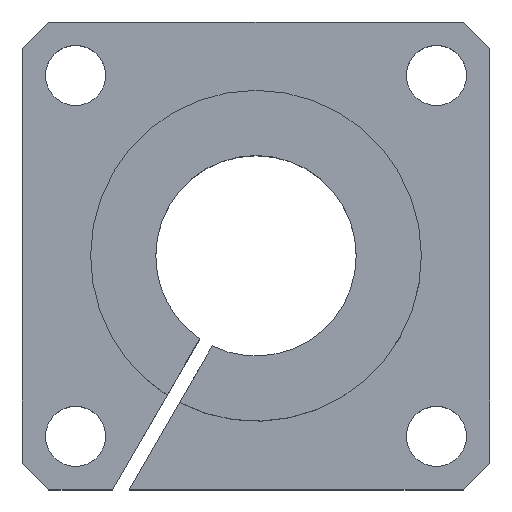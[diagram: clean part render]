
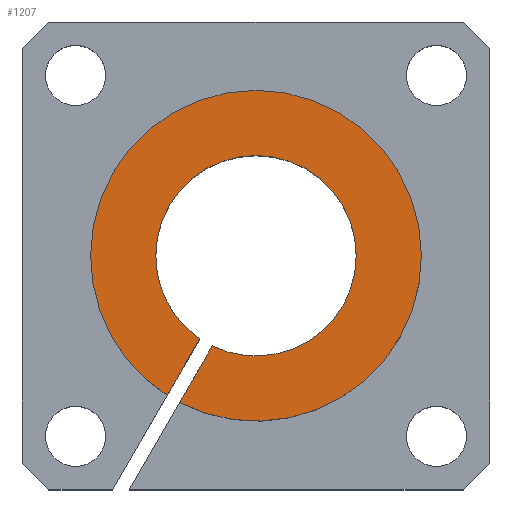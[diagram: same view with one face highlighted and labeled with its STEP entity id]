
A CAD part, top view. The second image highlights one B-rep face of the part: STEP entity #1207.
In plain terms, the highlighted planar face has unit normal (0, 0, 1).
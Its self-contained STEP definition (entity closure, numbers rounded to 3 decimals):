
#12 = CARTESIAN_POINT ( 'NONE',  ( 0., 0., 15. ) ) ;
#45 = CARTESIAN_POINT ( 'NONE',  ( -1.353, -4.493, 15. ) ) ;
#69 = DIRECTION ( 'NONE',  ( 0., 0., 1. ) ) ;
#86 = VERTEX_POINT ( 'NONE', #1185 ) ;
#90 = EDGE_CURVE ( 'NONE', #526, #1027, #760, .T. ) ;
#96 = CARTESIAN_POINT ( 'NONE',  ( 0., 0., 15. ) ) ;
#124 = CARTESIAN_POINT ( 'NONE',  ( -24.75, 0., 15. ) ) ;
#128 = FACE_OUTER_BOUND ( 'NONE', #168, .T. ) ;
#133 = DIRECTION ( 'NONE',  ( 0., 0., 1. ) ) ;
#136 = DIRECTION ( 'NONE',  ( 1., 0., 0. ) ) ;
#153 = CARTESIAN_POINT ( 'NONE',  ( 15., 0., 15. ) ) ;
#168 = EDGE_LOOP ( 'NONE', ( #590, #1076, #1213, #1003, #1131, #212, #815, #1132 ) ) ;
#185 = EDGE_CURVE ( 'NONE', #1137, #290, #1040, .T. ) ;
#212 = ORIENTED_EDGE ( 'NONE', *, *, #861, .F. ) ;
#240 = VERTEX_POINT ( 'NONE', #153 ) ;
#246 = VECTOR ( 'NONE', #626, 1000. ) ;
#250 = AXIS2_PLACEMENT_3D ( 'NONE', #1211, #998, #136 ) ;
#290 = VERTEX_POINT ( 'NONE', #863 ) ;
#292 = DIRECTION ( 'NONE',  ( 1., 0., 0. ) ) ;
#300 = VERTEX_POINT ( 'NONE', #455 ) ;
#301 = AXIS2_PLACEMENT_3D ( 'NONE', #683, #69, #446 ) ;
#327 = AXIS2_PLACEMENT_3D ( 'NONE', #731, #437, #642 ) ;
#333 = VERTEX_POINT ( 'NONE', #1059 ) ;
#362 = DIRECTION ( 'NONE',  ( 1., 0., 0. ) ) ;
#371 = CIRCLE ( 'NONE', #301, 24.75 ) ;
#437 = DIRECTION ( 'NONE',  ( 0., 0., 1. ) ) ;
#446 = DIRECTION ( 'NONE',  ( 1., 0., 0. ) ) ;
#455 = CARTESIAN_POINT ( 'NONE',  ( -8.412, -12.419, 15. ) ) ;
#485 = CIRCLE ( 'NONE', #327, 24.75 ) ;
#489 = CIRCLE ( 'NONE', #1143, 15. ) ;
#526 = VERTEX_POINT ( 'NONE', #124 ) ;
#559 = AXIS2_PLACEMENT_3D ( 'NONE', #96, #1183, #687 ) ;
#574 = AXIS2_PLACEMENT_3D ( 'NONE', #12, #785, #292 ) ;
#590 = ORIENTED_EDGE ( 'NONE', *, *, #185, .F. ) ;
#617 = EDGE_CURVE ( 'NONE', #300, #1027, #804, .T. ) ;
#626 = DIRECTION ( 'NONE',  ( 0.5, 0.866, 0. ) ) ;
#642 = DIRECTION ( 'NONE',  ( 1., 0., 0. ) ) ;
#683 = CARTESIAN_POINT ( 'NONE',  ( 0., 0., 15. ) ) ;
#687 = DIRECTION ( 'NONE',  ( 1., 0., 0. ) ) ;
#688 = AXIS2_PLACEMENT_3D ( 'NONE', #1209, #133, #1142 ) ;
#699 = EDGE_CURVE ( 'NONE', #1137, #333, #485, .T. ) ;
#708 = CARTESIAN_POINT ( 'NONE',  ( -11.432, -21.951, 15. ) ) ;
#731 = CARTESIAN_POINT ( 'NONE',  ( 0., 0., 15. ) ) ;
#746 = CARTESIAN_POINT ( 'NONE',  ( 0., 0., 15. ) ) ;
#760 = CIRCLE ( 'NONE', #688, 24.75 ) ;
#780 = VECTOR ( 'NONE', #1200, 1000. ) ;
#782 = CIRCLE ( 'NONE', #559, 15. ) ;
#785 = DIRECTION ( 'NONE',  ( 0., 0., 1. ) ) ;
#802 = EDGE_CURVE ( 'NONE', #240, #86, #782, .T. ) ;
#804 = LINE ( 'NONE', #1118, #780 ) ;
#811 = EDGE_CURVE ( 'NONE', #290, #240, #1014, .T. ) ;
#815 = ORIENTED_EDGE ( 'NONE', *, *, #802, .F. ) ;
#861 = EDGE_CURVE ( 'NONE', #86, #300, #489, .T. ) ;
#862 = DIRECTION ( 'NONE',  ( 0., 0., 1. ) ) ;
#863 = CARTESIAN_POINT ( 'NONE',  ( -6.55, -13.494, 15. ) ) ;
#935 = PLANE ( 'NONE',  #250 ) ;
#998 = DIRECTION ( 'NONE',  ( 0., 0., 1. ) ) ;
#1003 = ORIENTED_EDGE ( 'NONE', *, *, #90, .T. ) ;
#1005 = EDGE_CURVE ( 'NONE', #333, #526, #371, .T. ) ;
#1014 = CIRCLE ( 'NONE', #574, 15. ) ;
#1027 = VERTEX_POINT ( 'NONE', #1236 ) ;
#1040 = LINE ( 'NONE', #45, #246 ) ;
#1059 = CARTESIAN_POINT ( 'NONE',  ( 24.75, 0., 15. ) ) ;
#1076 = ORIENTED_EDGE ( 'NONE', *, *, #699, .T. ) ;
#1118 = CARTESIAN_POINT ( 'NONE',  ( -3.215, -3.418, 15. ) ) ;
#1131 = ORIENTED_EDGE ( 'NONE', *, *, #617, .F. ) ;
#1132 = ORIENTED_EDGE ( 'NONE', *, *, #811, .F. ) ;
#1137 = VERTEX_POINT ( 'NONE', #708 ) ;
#1142 = DIRECTION ( 'NONE',  ( 1., 0., 0. ) ) ;
#1143 = AXIS2_PLACEMENT_3D ( 'NONE', #746, #862, #362 ) ;
#1183 = DIRECTION ( 'NONE',  ( 0., 0., 1. ) ) ;
#1185 = CARTESIAN_POINT ( 'NONE',  ( -15., 0., 15. ) ) ;
#1200 = DIRECTION ( 'NONE',  ( -0.5, -0.866, 0. ) ) ;
#1207 = ADVANCED_FACE ( 'NONE', ( #128 ), #935, .T. ) ;
#1209 = CARTESIAN_POINT ( 'NONE',  ( 0., 0., 15. ) ) ;
#1211 = CARTESIAN_POINT ( 'NONE',  ( 0., 0., 15. ) ) ;
#1213 = ORIENTED_EDGE ( 'NONE', *, *, #1005, .T. ) ;
#1236 = CARTESIAN_POINT ( 'NONE',  ( -13.294, -20.876, 15. ) ) ;
